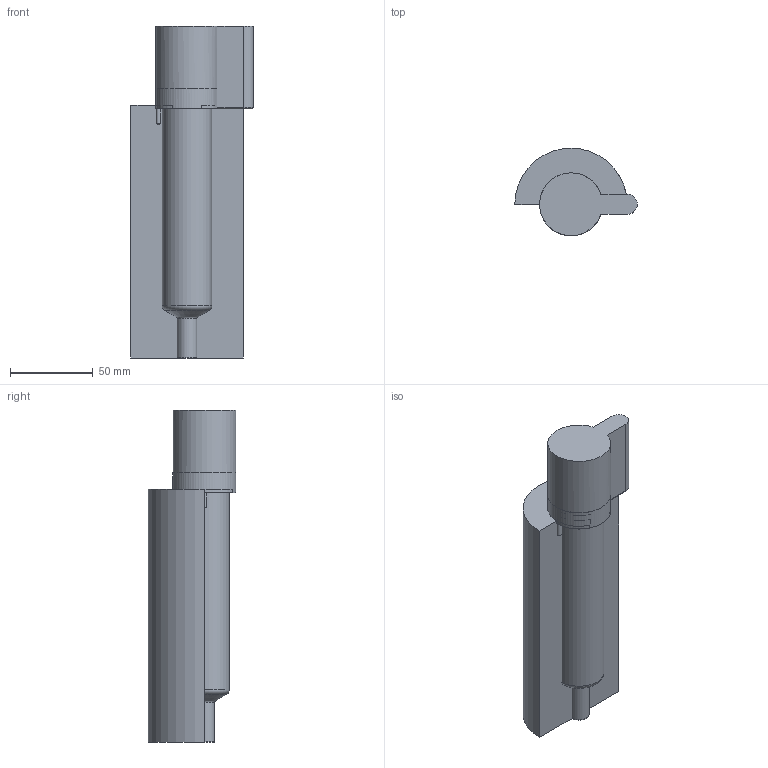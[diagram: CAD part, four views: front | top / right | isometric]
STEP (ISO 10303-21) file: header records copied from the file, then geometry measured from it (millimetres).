
FILE_DESCRIPTION(/* description */ (''),/* implementation_level */ '2;1');
FILE_NAME(/* name */ 'BXYCN16130P7U_200C_a',/* time_stamp */ '2017-09-29T09:39:18+13:00',/* author */ (''),/* organization */ (''),/* preprocessor_version */ 'ST-DEVELOPER v9',/* originating_system */ 'UGS - NX 4.0',/* authorisation */ '');
FILE_SCHEMA (('AUTOMOTIVE_DESIGN { 1 0 10303 214 1 1 1 1 }'));
Length unit declared in the file: millimetre
Products named in the file (1): BXYCN16130P7U_200C_a
Bounding box: 74 x 53 x 200.62 mm (x, y, z)
Volume: 478940.1 mm3; surface area: 74885.7 mm2
Topology: 10 solids, 10 shells, 98 faces, 228 edges, 149 vertices
Faces by surface type: plane 41, cylinder 31, torus 10, cone 8, sphere 7, bspline 1
Full cylindrical faces by diameter (mm): 1 x2, 1.4 x1, 2.5 x2, 5 x1, 7 x1, 11.61 x1, 11.995 x2, 14.8 x1, 25.4 x1, 30 x1, 38 x1
Entity records: 2771 total; most frequent: CARTESIAN_POINT 650, DIRECTION 444, ORIENTED_EDGE 348, AXIS2_PLACEMENT_3D 186, EDGE_CURVE 174, VERTEX_POINT 134, EDGE_LOOP 131, ADVANCED_FACE 98
